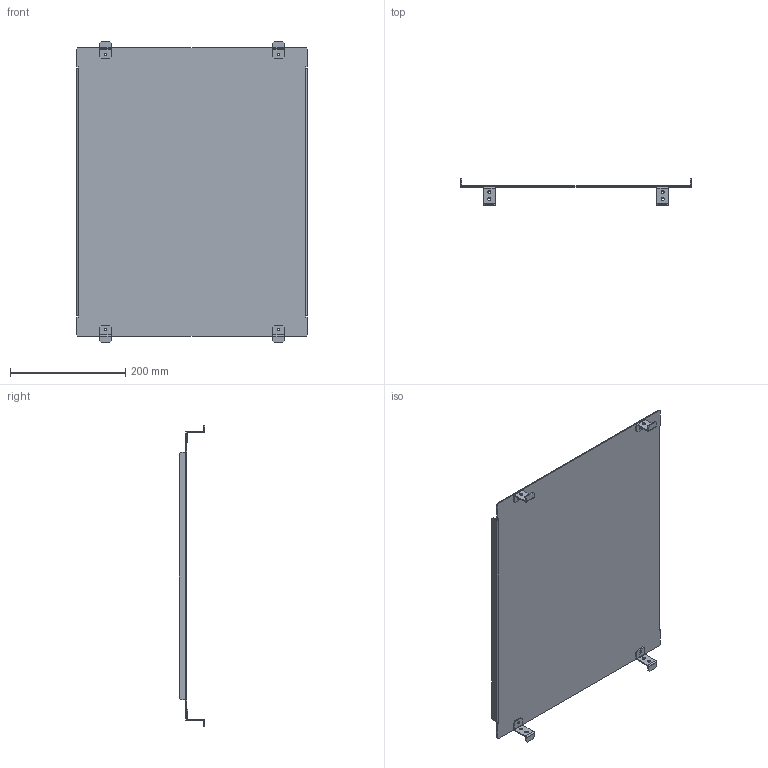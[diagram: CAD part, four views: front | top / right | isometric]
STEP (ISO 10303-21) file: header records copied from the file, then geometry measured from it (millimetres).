
FILE_DESCRIPTION(('CAx-IF Rec.Pracs.---Model Styling and Organization---1.2---2011-12-15','CAx-IF Rec.Pracs.---Geometric and Assembly Validation Properties---4.1---2014-06-16','CAx-IF Rec.Pracs.---PMI Polyline Presentation---2.0---2013-05-24'),'2;1');
FILE_NAME('R5SBPW64.stp','2021-05-06T03:04:11+03:00',(''),(''),'STEP Interface 4.4 by CT CoreTechnologie','3D_Evolution4.4 by CT CoreTechnologie','');
FILE_SCHEMA(('AUTOMOTIVE_DESIGN { 1 0 10303 214 1 1 1 1 }'));
Length unit declared in the file: millimetre
Products named in the file (3): R5SBPW64; RB.0521.00.00.0_-00; RB.0532.00.00.0_-00
Assembly tree (5 placements, depth 2):
  R5SBPW64
    RB.0521.00.00.0_-00  x4
    RB.0532.00.00.0_-00
Bounding box: 399 x 45 x 522 mm (x, y, z)
Surface area: 430284.9 mm2 (no closed solid volume)
Topology: 0 solids, 5 shells, 162 faces, 440 edges, 288 vertices
Faces by surface type: plane 106, cylinder 56
Entity records: 2906 total; most frequent: CARTESIAN_POINT 482, ORIENTED_EDGE 472, DIRECTION 468, EDGE_CURVE 236, VECTOR 184, LINE 184, VERTEX_POINT 156, AXIS2_PLACEMENT_3D 142
